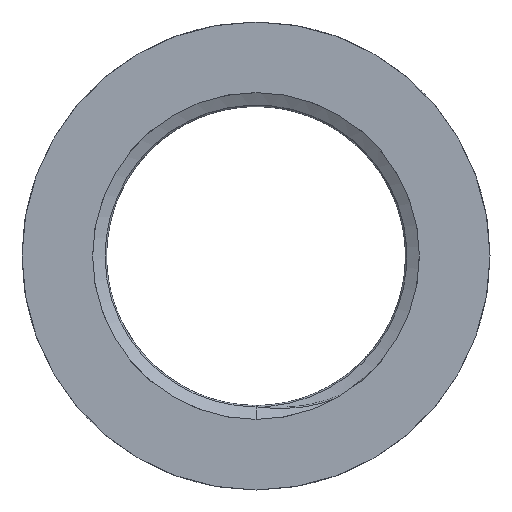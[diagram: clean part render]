
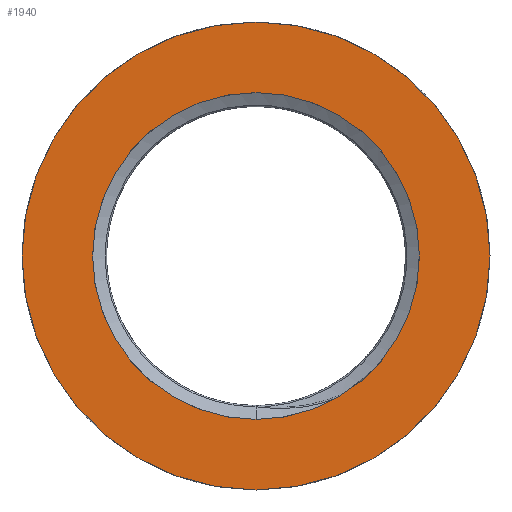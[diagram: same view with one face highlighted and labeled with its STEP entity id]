
A CAD part, front view. The second image highlights one B-rep face of the part: STEP entity #1940.
In plain terms, the highlighted planar face has unit normal (0, -1, 0).
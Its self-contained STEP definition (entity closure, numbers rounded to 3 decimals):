
#3 = CIRCLE ( 'NONE', #157, 14.5 ) ;
#34 = DIRECTION ( 'NONE',  ( 0., 0., 1. ) ) ;
#157 = AXIS2_PLACEMENT_3D ( 'NONE', #3096, #2066, #2134 ) ;
#216 = DIRECTION ( 'NONE',  ( 0., 1., 0. ) ) ;
#435 = VERTEX_POINT ( 'NONE', #3357 ) ;
#548 = DIRECTION ( 'NONE',  ( 0., 0., 1. ) ) ;
#982 = CIRCLE ( 'NONE', #3729, 10.125 ) ;
#1029 = FACE_BOUND ( 'NONE', #3421, .T. ) ;
#1085 = EDGE_CURVE ( 'NONE', #3060, #3060, #982, .T. ) ;
#1302 = PLANE ( 'NONE',  #3733 ) ;
#1323 = DIRECTION ( 'NONE',  ( 0., 1., 0. ) ) ;
#1940 = ADVANCED_FACE ( 'NONE', ( #3926, #1029 ), #1302, .F. ) ;
#2066 = DIRECTION ( 'NONE',  ( 0., 1., 0. ) ) ;
#2134 = DIRECTION ( 'NONE',  ( 0., 0., 1. ) ) ;
#2608 = CARTESIAN_POINT ( 'NONE',  ( 0., 0., 0. ) ) ;
#3018 = CARTESIAN_POINT ( 'NONE',  ( 0., 0., 10.125 ) ) ;
#3060 = VERTEX_POINT ( 'NONE', #3018 ) ;
#3096 = CARTESIAN_POINT ( 'NONE',  ( 0., 0., 0. ) ) ;
#3209 = ORIENTED_EDGE ( 'NONE', *, *, #1085, .T. ) ;
#3308 = EDGE_LOOP ( 'NONE', ( #3854 ) ) ;
#3357 = CARTESIAN_POINT ( 'NONE',  ( 0., 0., 14.5 ) ) ;
#3421 = EDGE_LOOP ( 'NONE', ( #3209 ) ) ;
#3729 = AXIS2_PLACEMENT_3D ( 'NONE', #3832, #216, #548 ) ;
#3733 = AXIS2_PLACEMENT_3D ( 'NONE', #2608, #1323, #34 ) ;
#3832 = CARTESIAN_POINT ( 'NONE',  ( 0., 0., 0. ) ) ;
#3854 = ORIENTED_EDGE ( 'NONE', *, *, #4260, .F. ) ;
#3926 = FACE_OUTER_BOUND ( 'NONE', #3308, .T. ) ;
#4260 = EDGE_CURVE ( 'NONE', #435, #435, #3, .T. ) ;
